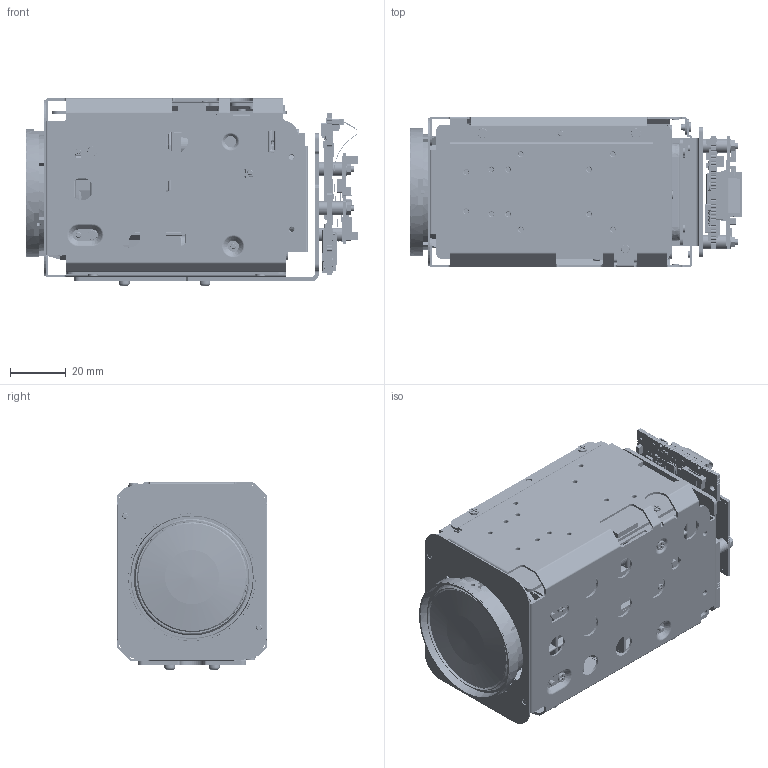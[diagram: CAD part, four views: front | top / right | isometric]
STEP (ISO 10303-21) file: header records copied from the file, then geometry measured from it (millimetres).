
FILE_DESCRIPTION( ( 'Unknown' ), '1' );
FILE_NAME( 'Q:/2003/Product3DCADModels/STEP-test/mm-ap29c01-0142-0101.stp', 'Unknown', ( 'Unknown' ), ( 'Unknown' ), 'PSStep 17.0.49', 'Unknown', ' ' );
FILE_SCHEMA( ( 'AUTOMOTIVE_DESIGN { 1 0 10303 214 1 1 1 1 }' ) );
Length unit declared in the file: millimetre
Products named in the file (652): DF033N0000-129-_X2_5F8C90E893E1_ASM; _X2_5F8C90E893E17B52_X0__1_4; _X2_5F8C90E893E17B52_X0__2_4; _X2_5F8C90E893E17B52_X0__3_4; _X2_30B230FC30C8_X0__1_4; _X2_30B230FC30C8_X0__2_4; _X2_30B230FC30C8_X0__3_4; Lead-3; Open_CASCADE_STEP_translator_6.8_1.2.1; DF033N0000-316-_X2_76EE96A03057_ASM; 1_0_X2_664265B95411_X0___X2_7C9; 1_0_X2_664265B95411_X0___X2_906; 2__X2_FF13664265B95411_X-324876; 2__X2_FF13664265B95411_X-325158; 3__X2_FF19664265B95411_X-325308; 3__X2_FF19664265B95411_X-325458; Lead; Lead-5; Lead-4; DF033N0000-317-_X2_76EE96A03057_ASM; _X2_906E514930B730FC30C8_X0___X; _X2_7C9877406750_X0___X2_30A230; DF033N0000-771-IR_X2_30E130FC30_ASM; _X2_30EC30D030FC_X0_2__X2_306E7; _X2_53D64ED890E8_X0__4; _X2_30A830F330B830F3_X0___X2_30; DF033N0000-900-_X2_30E130A430F3_ASM; _X2_88CF62533061_X0_A_1_4; _X2_88CF62533061_X0_A_2_4; _X2_88CF62533061_X0_A_3_4; _X2_88CF62533061_X0_A_4_4; _X2_88CF62533061_X0_A_5_4; _X2_88CF62533061_X0_A_6_4; _X2_88CF62533061_X0_B_2_4; _X2_88CF62533061_X0_B_3_4; _X2_88CF62533061_X0_B_4_4; _X2_30E130A430F3_X0_FPC-01__X2_; Lead-6; Lead-7; DF033N0000-A09-_X2_30D530A330EB_ASM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
Assembly tree (1591 placements, depth 8):
  Assem1
    G-806-048H  x4
    G-875-322T  x3
    G-977-016Z  x3
    G-161-906B  x3
    flexi-01
    bracket-assy
      bracket-0378-02
      G-373-916V  x3
      G-513-075C  x3
    AS-CAM-40LHD
      000_40LHD_ASM_409_ASM
        355037038_PLATE_BRACKET_180
        360037020_RUBBER_SENSOR_50
        71B687110_PCB_SENSOR_100
        837102062_TS_CH_M2X6_6  x3
        365837060S_SPACER_BRKT_PCB_128
        837002042A_TS_CH_M2X4_2  x5
        PCB_MAIN_40LHD_114
        817002032_MS_CH_M2X3_3  x4
        323037112S_CHASSIS_BOTTOM_126
        323037110S_CHASSIS_TOP_129
        817002032A_MS_CH_M2X3_2  x7
        363037018_SHEET_CHASSIS_5
        DF033N0000-ALLASSY_ASM_17_ASM
          DF033N0000-A01-_X2_5B8C621054C1_ASM
            DF033N0000-127-_X2_4E3B93E17B52
            DF033N0000-401-_X2_30DE30A630F3
            DF033N0000-711-_X2_30A230A430EA
            DF033N0000-731-ZA_X2_30B930C630
            DF033N0000-741-ZB_X2_30B930C630  x2
            DF033N0000-751-F_X2_30B930C630C
            DF016NJ000-176F-M2WASHER_4  x4
            ND011F0-419-QR_X2_30B730FC30EB_
            BT2P1_7X4_0C3C_4  x13
            BT2P1_7X5_0B3C_4  x16
            BT2P1_4X2_5B3C_4  x11
            DF033N0000-Y01-_X2_5B8C621054C1_ASM
              _X2_591689B3752830AB30D730C-211
              _X2_591689B3752830AB30D730C-363
              _X2_591689B3752830AB30D730C-513
              _X2_591689B3752830AB30D730C-653
            DF033N0000-A02-1_X2_7FA4_X0_ASS_ASM
              DF03300000-G01-G01_4
              DF033N0000-121-_1_X2_7FA430EC30
            DF033N0000-A08-_X2_5F8C90E893E1_ASM
              DF033N0000-129-_X2_5F8C90E893E1_ASM
                _X2_5F8C90E893E17B52_X0__1_4
                _X2_5F8C90E893E17B52_X0__2_4
                _X2_5F8C90E893E17B52_X0__3_4
                _X2_30B230FC30C8_X0__1_4
                _X2_30B230FC30C8_X0__2_4
                _X2_30B230FC30C8_X0__3_4
            DF033N0000-A09-_X2_30D530A330EB_ASM
              DF033N0000-151-_X2_30D530A330EB
              DF02800000-G14-IRC_X2_30D530A33
              DF02800000-G15-_X2_30C030DF30FC
            DF033N0000-316-_X2_76EE96A03057_ASM
              1_0_X2_664265B95411_X0___X2_7C9
              1_0_X2_664265B95411_X0___X2_906
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Bounding box: 118.99 x 54 x 67.14 mm (x, y, z)
Volume: 95710.4 mm3; surface area: 197388.9 mm2
Topology: 1187 solids, 1188 shells, 29287 faces, 74540 edges, 47518 vertices
Faces by surface type: plane 18585, cylinder 6506, bspline 1179, cone 1164, torus 1132, sphere 545, extrusion 95, revolution 81
Full cylindrical faces by diameter (mm): 0.041 x1, 0.14 x1, 0.15 x1, 0.2 x2, 0.25 x1, 0.4 x2, 0.5 x1, 0.519 x1, 0.6 x8, 0.7 x12, 0.75 x16, 1 x4, 1.1 x1, 1.12 x2, 1.15 x11, 1.2 x11, 1.3 x2, 1.4 x13, 1.45 x35, 1.5 x67, 1.567 x3, 1.6 x53, 1.7 x38, 1.8 x21, 1.85 x5, 1.9 x8, 2 x69, 2.1 x6, 2.2 x76, 2.4 x49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
Entity records: 819774 total; most frequent: CARTESIAN_POINT 197068, ORIENTED_EDGE 94257, DIRECTION 94057, EDGE_CURVE 47129, AXIS2_PLACEMENT_3D 32369, VERTEX_POINT 30322, VECTOR 29280, LINE 29185
